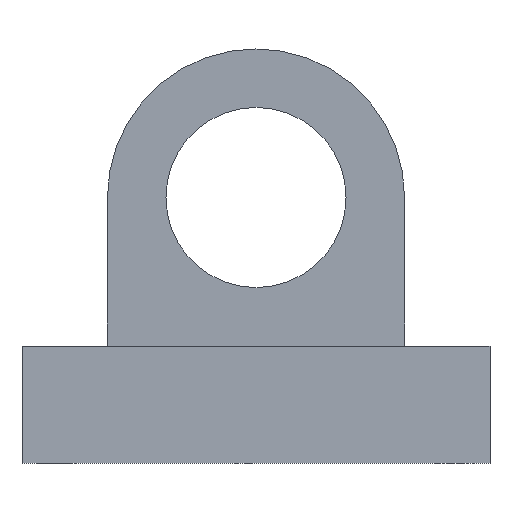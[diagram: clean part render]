
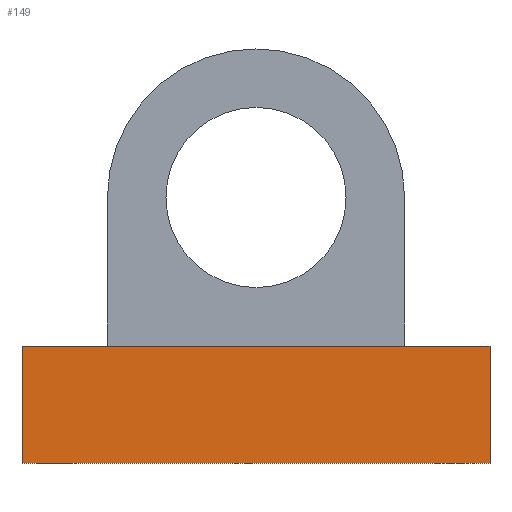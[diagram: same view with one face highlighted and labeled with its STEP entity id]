
A CAD part, left-side view. The second image highlights one B-rep face of the part: STEP entity #149.
In plain terms, the highlighted planar face has unit normal (-1, 0, 0).
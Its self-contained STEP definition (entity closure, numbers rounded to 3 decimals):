
#46 = DIRECTION ( 'NONE',  ( 0., 0., -1. ) ) ;
#55 = ORIENTED_EDGE ( 'NONE', *, *, #576, .T. ) ;
#58 = LINE ( 'NONE', #412, #220 ) ;
#64 = CARTESIAN_POINT ( 'NONE',  ( -10., 20., 0. ) ) ;
#69 = EDGE_CURVE ( 'NONE', #161, #274, #672, .T. ) ;
#86 = EDGE_LOOP ( 'NONE', ( #336, #192, #148, #424, #740, #55 ) ) ;
#88 = VECTOR ( 'NONE', #46, 1000. ) ;
#112 = LINE ( 'NONE', #283, #88 ) ;
#117 = VECTOR ( 'NONE', #566, 1000. ) ;
#148 = ORIENTED_EDGE ( 'NONE', *, *, #522, .F. ) ;
#149 = ADVANCED_FACE ( 'NONE', ( #511 ), #245, .F. ) ;
#161 = VERTEX_POINT ( 'NONE', #64 ) ;
#188 = DIRECTION ( 'NONE',  ( 0., 0., -1. ) ) ;
#191 = CARTESIAN_POINT ( 'NONE',  ( -10., -4.233, 10. ) ) ;
#192 = ORIENTED_EDGE ( 'NONE', *, *, #538, .F. ) ;
#197 = CARTESIAN_POINT ( 'NONE',  ( -10., -20., 0. ) ) ;
#214 = CARTESIAN_POINT ( 'NONE',  ( -10., -20., 10. ) ) ;
#220 = VECTOR ( 'NONE', #188, 1000. ) ;
#225 = VERTEX_POINT ( 'NONE', #313 ) ;
#245 = PLANE ( 'NONE',  #525 ) ;
#274 = VERTEX_POINT ( 'NONE', #197 ) ;
#282 = B_SPLINE_CURVE_WITH_KNOTS ( 'NONE', 3,
 ( #482, #543, #191, #594 ),
 .UNSPECIFIED., .F., .F.,
 ( 4, 4 ),
 ( 0., 1. ),
 .UNSPECIFIED. ) ;
#283 = CARTESIAN_POINT ( 'NONE',  ( -10., -20., 10. ) ) ;
#284 = VECTOR ( 'NONE', #677, 1000. ) ;
#313 = CARTESIAN_POINT ( 'NONE',  ( -10., 20., 10. ) ) ;
#317 = VECTOR ( 'NONE', #351, 1000. ) ;
#325 = VERTEX_POINT ( 'NONE', #377 ) ;
#336 = ORIENTED_EDGE ( 'NONE', *, *, #69, .T. ) ;
#339 = CARTESIAN_POINT ( 'NONE',  ( -10., -20., 10. ) ) ;
#351 = DIRECTION ( 'NONE',  ( 0., -1., 0. ) ) ;
#377 = CARTESIAN_POINT ( 'NONE',  ( -10., 12.7, 10. ) ) ;
#412 = CARTESIAN_POINT ( 'NONE',  ( -10., 20., 10. ) ) ;
#415 = CARTESIAN_POINT ( 'NONE',  ( -10., -20., 10. ) ) ;
#420 = EDGE_CURVE ( 'NONE', #225, #325, #436, .T. ) ;
#424 = ORIENTED_EDGE ( 'NONE', *, *, #609, .F. ) ;
#436 = LINE ( 'NONE', #214, #117 ) ;
#467 = CARTESIAN_POINT ( 'NONE',  ( -10., -12.7, 10. ) ) ;
#482 = CARTESIAN_POINT ( 'NONE',  ( -10., 12.7, 10. ) ) ;
#483 = CARTESIAN_POINT ( 'NONE',  ( -10., -20., 10. ) ) ;
#511 = FACE_OUTER_BOUND ( 'NONE', #86, .T. ) ;
#522 = EDGE_CURVE ( 'NONE', #749, #673, #739, .T. ) ;
#525 = AXIS2_PLACEMENT_3D ( 'NONE', #483, #544, #647 ) ;
#538 = EDGE_CURVE ( 'NONE', #673, #274, #112, .T. ) ;
#543 = CARTESIAN_POINT ( 'NONE',  ( -10., 4.233, 10. ) ) ;
#544 = DIRECTION ( 'NONE',  ( 1., 0., 0. ) ) ;
#566 = DIRECTION ( 'NONE',  ( 0., -1., 0. ) ) ;
#576 = EDGE_CURVE ( 'NONE', #225, #161, #58, .T. ) ;
#594 = CARTESIAN_POINT ( 'NONE',  ( -10., -12.7, 10. ) ) ;
#609 = EDGE_CURVE ( 'NONE', #325, #749, #282, .T. ) ;
#647 = DIRECTION ( 'NONE',  ( 0., 0., -1. ) ) ;
#672 = LINE ( 'NONE', #697, #317 ) ;
#673 = VERTEX_POINT ( 'NONE', #415 ) ;
#677 = DIRECTION ( 'NONE',  ( 0., -1., 0. ) ) ;
#697 = CARTESIAN_POINT ( 'NONE',  ( -10., -20., 0. ) ) ;
#739 = LINE ( 'NONE', #339, #284 ) ;
#740 = ORIENTED_EDGE ( 'NONE', *, *, #420, .F. ) ;
#749 = VERTEX_POINT ( 'NONE', #467 ) ;
